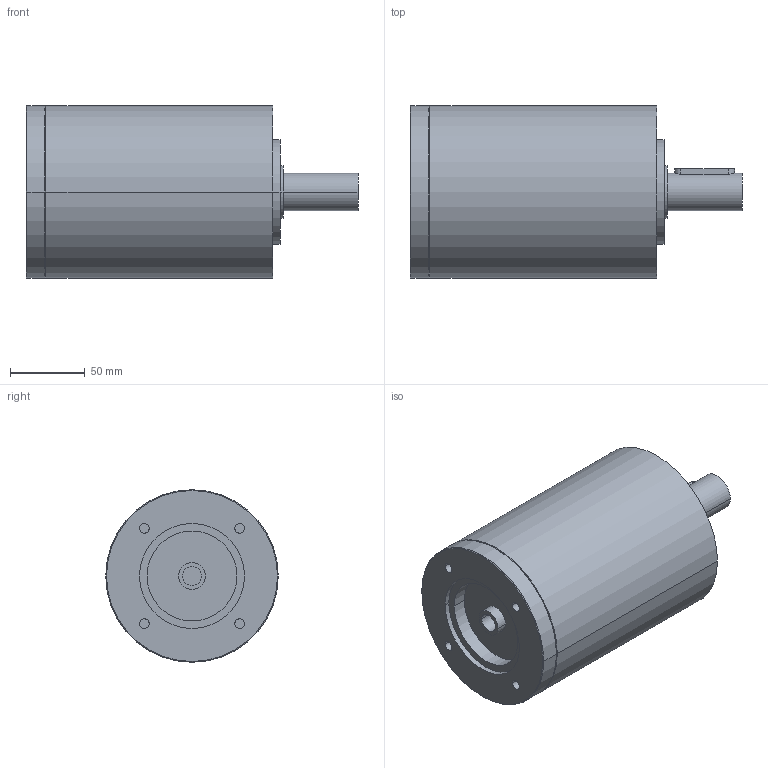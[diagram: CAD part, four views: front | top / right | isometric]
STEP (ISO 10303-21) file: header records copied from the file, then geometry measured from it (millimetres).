
FILE_DESCRIPTION(('CoCreate Modeling STEP Export'),'2;1');
FILE_NAME('GPR125_ig-9-12-16-20-28-35_25_B14_12.7_P17.stp','2014-08-26T14:09:26',(''),(''),'CoCreate Modeling STEP processor for AP214 (Solid Model)','CoCreate Modeling 16.00C 25-Feb-2009 (C) Parametric Technology GmbH','');
FILE_SCHEMA(('AUTOMOTIVE_DESIGN { 1 0 10303 214 1 1 1 1 }'));
Length unit declared in the file: millimetre
Products named in the file (2): GPR125_ig-9-12-16-20-28-35_25_B14_12.7_P17
Assembly tree (1 placements, depth 2):
  GPR125_ig-9-12-16-20-28-35_25_B14_12.7_P17
    GPR125_ig-9-12-16-20-28-35_25_B14_12.7_P17
Bounding box: 221.4 x 115 x 115 mm (x, y, z)
Volume: 1705068.7 mm3; surface area: 93631.6 mm2
Topology: 1 solids, 1 shells, 67 faces, 164 edges, 114 vertices
Faces by surface type: cylinder 38, plane 21, cone 8
Entity records: 1690 total; most frequent: ORIENTED_EDGE 324, CARTESIAN_POINT 318, DIRECTION 220, EDGE_CURVE 162, VERTEX_POINT 114, AXIS2_PLACEMENT_3D 84, EDGE_LOOP 84, FACE_OUTER_BOUND 67
